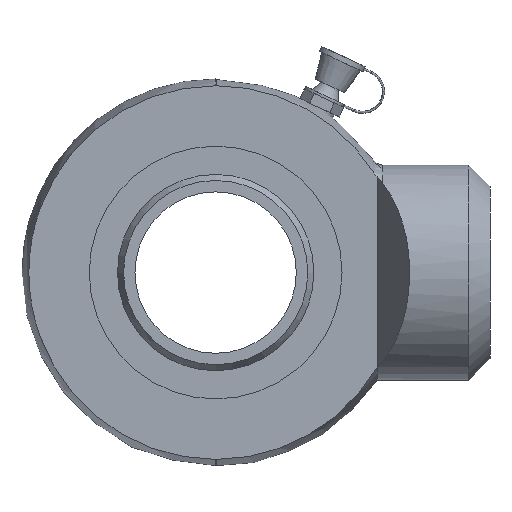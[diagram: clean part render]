
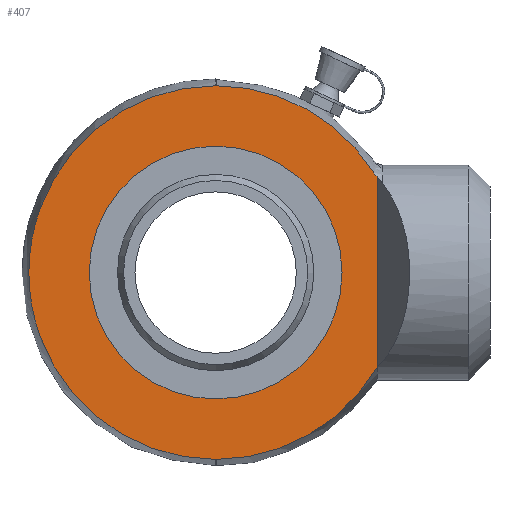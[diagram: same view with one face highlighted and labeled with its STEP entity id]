
A CAD part, front view. The second image highlights one B-rep face of the part: STEP entity #407.
In plain terms, the highlighted planar face has unit normal (0, -1, 0).
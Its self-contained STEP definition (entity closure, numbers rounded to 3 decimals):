
#407 = ADVANCED_FACE( '', ( #1195, #1196 ), #1197, .F. );
#1195 = FACE_BOUND( '', #1833, .T. );
#1196 = FACE_OUTER_BOUND( '', #1834, .T. );
#1197 = PLANE( '', #1835 );
#1833 = EDGE_LOOP( '', ( #2129 ) );
#1834 = EDGE_LOOP( '', ( #2130, #2131, #2132, #2133, #2134, #2135, #2136 ) );
#1835 = AXIS2_PLACEMENT_3D( '', #2137, #2138, #2139 );
#2129 = ORIENTED_EDGE( '', *, *, #2399, .T. );
#2130 = ORIENTED_EDGE( '', *, *, #2436, .F. );
#2131 = ORIENTED_EDGE( '', *, *, #2427, .T. );
#2132 = ORIENTED_EDGE( '', *, *, #2398, .F. );
#2133 = ORIENTED_EDGE( '', *, *, #2423, .F. );
#2134 = ORIENTED_EDGE( '', *, *, #2437, .F. );
#2135 = ORIENTED_EDGE( '', *, *, #2438, .T. );
#2136 = ORIENTED_EDGE( '', *, *, #2405, .F. );
#2137 = CARTESIAN_POINT( '', ( -48.737, -9.5, 126.052 ) );
#2138 = DIRECTION( '', ( 0., 1., 0. ) );
#2139 = DIRECTION( '', ( -1., 0., 0. ) );
#2398 = EDGE_CURVE( '', #2714, #2709, #2716, .F. );
#2399 = EDGE_CURVE( '', #2717, #2717, #2718, .T. );
#2405 = EDGE_CURVE( '', #2728, #2722, #2730, .F. );
#2423 = EDGE_CURVE( '', #2761, #2714, #2763, .F. );
#2427 = EDGE_CURVE( '', #2769, #2709, #2770, .T. );
#2436 = EDGE_CURVE( '', #2769, #2728, #2781, .T. );
#2437 = EDGE_CURVE( '', #2782, #2761, #2783, .F. );
#2438 = EDGE_CURVE( '', #2782, #2722, #2784, .F. );
#2709 = VERTEX_POINT( '', #3037 );
#2714 = VERTEX_POINT( '', #3042 );
#2716 = CIRCLE( '', #3044, 34.724 );
#2717 = VERTEX_POINT( '', #3045 );
#2718 = CIRCLE( '', #3046, 23.5 );
#2722 = VERTEX_POINT( '', #3050 );
#2728 = VERTEX_POINT( '', #3064 );
#2730 = CIRCLE( '', #3066, 34.724 );
#2761 = VERTEX_POINT( '', #3153 );
#2763 = LINE( '', #3155, #3156 );
#2769 = VERTEX_POINT( '', #3190 );
#2770 = B_SPLINE_CURVE_WITH_KNOTS( '', 3, ( #3191, #3192, #3193, #3194 ), .UNSPECIFIED., .F., .F., ( 4, 4 ), ( 0., 0.001 ), .UNSPECIFIED. );
#2781 = LINE( '', #3248, #3249 );
#2782 = VERTEX_POINT( '', #3250 );
#2783 = CIRCLE( '', #3251, 34.724 );
#2784 = LINE( '', #3252, #3253 );
#3037 = CARTESIAN_POINT( '', ( -25.404, -9.5, 18.551 ) );
#3042 = CARTESIAN_POINT( '', ( -54.757, -9.5, 34.724 ) );
#3044 = AXIS2_PLACEMENT_3D( '', #3474, #3475, #3476 );
#3045 = CARTESIAN_POINT( '', ( -78.324, -9.5, 0. ) );
#3046 = AXIS2_PLACEMENT_3D( '', #3477, #3478, #3479 );
#3050 = CARTESIAN_POINT( '', ( -54.757, -9.5, -34.724 ) );
#3064 = CARTESIAN_POINT( '', ( -24.824, -9.5, -17.6 ) );
#3066 = AXIS2_PLACEMENT_3D( '', #3492, #3493, #3494 );
#3153 = CARTESIAN_POINT( '', ( -54.824, -9.5, 34.724 ) );
#3155 = CARTESIAN_POINT( '', ( -110.824, -9.5, 34.724 ) );
#3156 = VECTOR( '', #3529, 1000. );
#3190 = CARTESIAN_POINT( '', ( -24.824, -9.5, 17.938 ) );
#3191 = CARTESIAN_POINT( '', ( -24.824, -9.5, 17.938 ) );
#3192 = CARTESIAN_POINT( '', ( -25.059, -9.5, 18.102 ) );
#3193 = CARTESIAN_POINT( '', ( -25.251, -9.5, 18.309 ) );
#3194 = CARTESIAN_POINT( '', ( -25.404, -9.5, 18.551 ) );
#3248 = CARTESIAN_POINT( '', ( -24.824, -9.5, 126.052 ) );
#3249 = VECTOR( '', #3548, 1000. );
#3250 = CARTESIAN_POINT( '', ( -54.824, -9.5, -34.724 ) );
#3251 = AXIS2_PLACEMENT_3D( '', #3549, #3550, #3551 );
#3252 = CARTESIAN_POINT( '', ( -110.824, -9.5, -34.724 ) );
#3253 = VECTOR( '', #3552, 1000. );
#3474 = CARTESIAN_POINT( '', ( -54.757, -9.5, 0. ) );
#3475 = DIRECTION( '', ( 0., -1., 0. ) );
#3476 = DIRECTION( '', ( 1., 0., 0. ) );
#3477 = CARTESIAN_POINT( '', ( -54.824, -9.5, 0. ) );
#3478 = DIRECTION( '', ( 0., 1., 0. ) );
#3479 = DIRECTION( '', ( -1., 0., 0. ) );
#3492 = CARTESIAN_POINT( '', ( -54.757, -9.5, 0. ) );
#3493 = DIRECTION( '', ( 0., -1., 0. ) );
#3494 = DIRECTION( '', ( 1., 0., 0. ) );
#3529 = DIRECTION( '', ( -1., 0., 0. ) );
#3548 = DIRECTION( '', ( 0., 0., -1. ) );
#3549 = CARTESIAN_POINT( '', ( -54.824, -9.5, 0. ) );
#3550 = DIRECTION( '', ( 0., -1., 0. ) );
#3551 = DIRECTION( '', ( 1., 0., 0. ) );
#3552 = DIRECTION( '', ( -1., 0., 0. ) );
